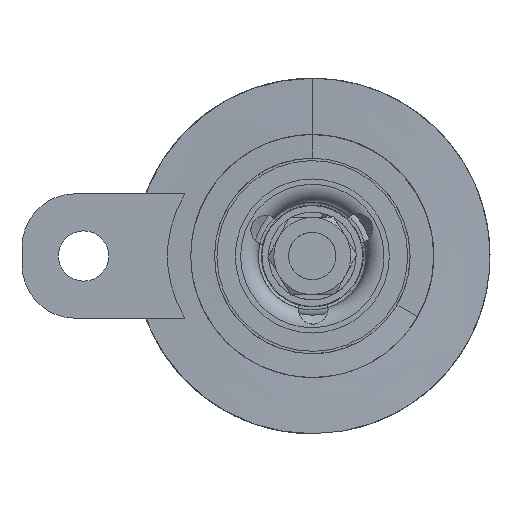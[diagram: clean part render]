
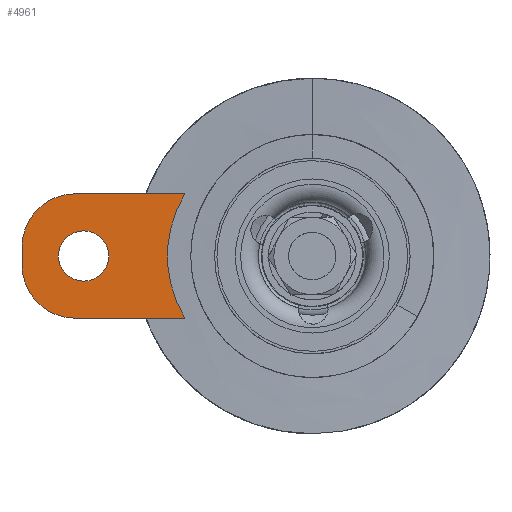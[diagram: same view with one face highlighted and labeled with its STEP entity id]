
A CAD part, left-side view. The second image highlights one B-rep face of the part: STEP entity #4961.
In plain terms, the highlighted planar face has unit normal (-1, 0, 0) as drawn and (0, 0, 1) by its records, which use the part's own axes.
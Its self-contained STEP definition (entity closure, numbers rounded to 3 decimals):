
#131=FACE_BOUND('',#654,.T.);
#147=PLANE('',#5427);
#385=FACE_OUTER_BOUND('',#653,.T.);
#653=EDGE_LOOP('',(#4078,#4079,#4080,#4081,#4082,#4083));
#654=EDGE_LOOP('',(#4084));
#743=CIRCLE('',#5426,20.1);
#744=CIRCLE('',#5428,9.);
#745=CIRCLE('',#5429,9.);
#746=CIRCLE('',#5430,4.25);
#1404=LINE('',#23609,#1644);
#1405=LINE('',#23613,#1645);
#1406=LINE('',#23616,#1646);
#1644=VECTOR('',#6203,10.);
#1645=VECTOR('',#6206,10.);
#1646=VECTOR('',#6209,10.);
#2073=VERTEX_POINT('',#23602);
#2074=VERTEX_POINT('',#23604);
#2075=VERTEX_POINT('',#23608);
#2076=VERTEX_POINT('',#23610);
#2077=VERTEX_POINT('',#23612);
#2078=VERTEX_POINT('',#23614);
#2079=VERTEX_POINT('',#23617);
#2757=EDGE_CURVE('',#2074,#2073,#743,.T.);
#2759=EDGE_CURVE('',#2075,#2073,#1404,.T.);
#2760=EDGE_CURVE('',#2076,#2075,#744,.T.);
#2761=EDGE_CURVE('',#2077,#2076,#1405,.T.);
#2762=EDGE_CURVE('',#2078,#2077,#745,.T.);
#2763=EDGE_CURVE('',#2074,#2078,#1406,.T.);
#2764=EDGE_CURVE('',#2079,#2079,#746,.T.);
#4078=ORIENTED_EDGE('',*,*,#2757,.T.);
#4079=ORIENTED_EDGE('',*,*,#2759,.F.);
#4080=ORIENTED_EDGE('',*,*,#2760,.F.);
#4081=ORIENTED_EDGE('',*,*,#2761,.F.);
#4082=ORIENTED_EDGE('',*,*,#2762,.F.);
#4083=ORIENTED_EDGE('',*,*,#2763,.F.);
#4084=ORIENTED_EDGE('',*,*,#2764,.T.);
#4961=ADVANCED_FACE('',(#385,#131),#147,.T.);
#5426=AXIS2_PLACEMENT_3D('',#23605,#6198,#6199);
#5427=AXIS2_PLACEMENT_3D('',#23607,#6201,#6202);
#5428=AXIS2_PLACEMENT_3D('',#23611,#6204,#6205);
#5429=AXIS2_PLACEMENT_3D('',#23615,#6207,#6208);
#5430=AXIS2_PLACEMENT_3D('',#23618,#6210,#6211);
#6198=DIRECTION('center_axis',(0.,0.,-1.));
#6199=DIRECTION('ref_axis',(1.,0.,0.));
#6201=DIRECTION('center_axis',(0.,0.,1.));
#6202=DIRECTION('ref_axis',(1.,0.,0.));
#6203=DIRECTION('',(0.,-1.,0.));
#6204=DIRECTION('center_axis',(0.,0.,-1.));
#6205=DIRECTION('ref_axis',(0.707,0.707,0.));
#6206=DIRECTION('',(1.,0.,0.));
#6207=DIRECTION('center_axis',(0.,0.,-1.));
#6208=DIRECTION('ref_axis',(-0.707,0.707,0.));
#6209=DIRECTION('',(0.,1.,0.));
#6210=DIRECTION('center_axis',(0.,0.,-1.));
#6211=DIRECTION('ref_axis',(1.,0.,0.));
#23602=CARTESIAN_POINT('',(21.,0.,2.));
#23604=CARTESIAN_POINT('',(0.,0.,2.));
#23605=CARTESIAN_POINT('Origin',(10.5,-17.139,2.));
#23607=CARTESIAN_POINT('Origin',(10.5,13.75,2.));
#23608=CARTESIAN_POINT('',(21.,18.5,2.));
#23609=CARTESIAN_POINT('',(21.,0.,2.));
#23610=CARTESIAN_POINT('',(12.,27.5,2.));
#23611=CARTESIAN_POINT('Origin',(12.,18.5,2.));
#23612=CARTESIAN_POINT('',(9.,27.5,2.));
#23613=CARTESIAN_POINT('',(21.,27.5,2.));
#23614=CARTESIAN_POINT('',(0.,18.5,2.));
#23615=CARTESIAN_POINT('Origin',(9.,18.5,2.));
#23616=CARTESIAN_POINT('',(0.,27.5,2.));
#23617=CARTESIAN_POINT('',(6.25,17.1,2.));
#23618=CARTESIAN_POINT('Origin',(10.5,17.1,2.));
